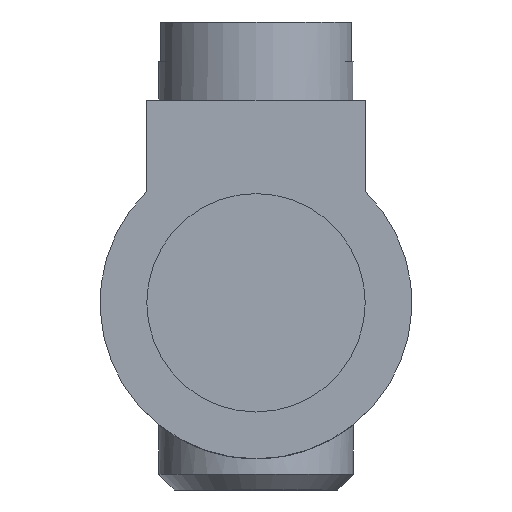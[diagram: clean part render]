
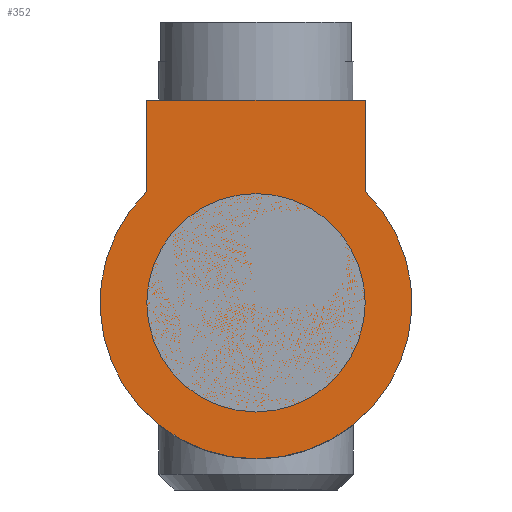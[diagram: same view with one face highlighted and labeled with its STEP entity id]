
A CAD part, front view. The second image highlights one B-rep face of the part: STEP entity #352.
In plain terms, the highlighted planar face has unit normal (0, -1, 0).
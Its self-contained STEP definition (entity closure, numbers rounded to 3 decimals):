
#272 = VERTEX_POINT('',#273);
#273 = CARTESIAN_POINT('',(-1.4,0.,1.428));
#291 = VERTEX_POINT('',#292);
#292 = CARTESIAN_POINT('',(1.4,0.,1.428));
#298 = EDGE_CURVE('',#272,#291,#299,.T.);
#299 = CIRCLE('',#300,2.);
#300 = AXIS2_PLACEMENT_3D('',#301,#302,#303);
#301 = CARTESIAN_POINT('',(0.,0.,0.));
#302 = DIRECTION('',(0.,-1.,0.));
#303 = DIRECTION('',(1.,0.,0.));
#335 = VERTEX_POINT('',#336);
#336 = CARTESIAN_POINT('',(-1.4,0.,2.6));
#342 = EDGE_CURVE('',#272,#335,#343,.T.);
#343 = LINE('',#344,#345);
#344 = CARTESIAN_POINT('',(-1.4,0.,1.428));
#345 = VECTOR('',#346,1.);
#346 = DIRECTION('',(0.,0.,1.));
#352 = ADVANCED_FACE('',(#353),#371,.F.);
#353 = FACE_BOUND('',#354,.T.);
#354 = EDGE_LOOP('',(#355,#356,#364,#370));
#355 = ORIENTED_EDGE('',*,*,#298,.T.);
#356 = ORIENTED_EDGE('',*,*,#357,.F.);
#357 = EDGE_CURVE('',#358,#291,#360,.T.);
#358 = VERTEX_POINT('',#359);
#359 = CARTESIAN_POINT('',(1.4,0.,2.6));
#360 = LINE('',#361,#362);
#361 = CARTESIAN_POINT('',(1.4,0.,2.6));
#362 = VECTOR('',#363,1.);
#363 = DIRECTION('',(0.,0.,-1.));
#364 = ORIENTED_EDGE('',*,*,#365,.F.);
#365 = EDGE_CURVE('',#335,#358,#366,.T.);
#366 = LINE('',#367,#368);
#367 = CARTESIAN_POINT('',(-1.4,0.,2.6));
#368 = VECTOR('',#369,1.);
#369 = DIRECTION('',(1.,0.,0.));
#370 = ORIENTED_EDGE('',*,*,#342,.F.);
#371 = PLANE('',#372);
#372 = AXIS2_PLACEMENT_3D('',#373,#374,#375);
#373 = CARTESIAN_POINT('',(0.,0.,
    0.59));
#374 = DIRECTION('',(0.,1.,0.));
#375 = DIRECTION('',(0.,0.,1.));
